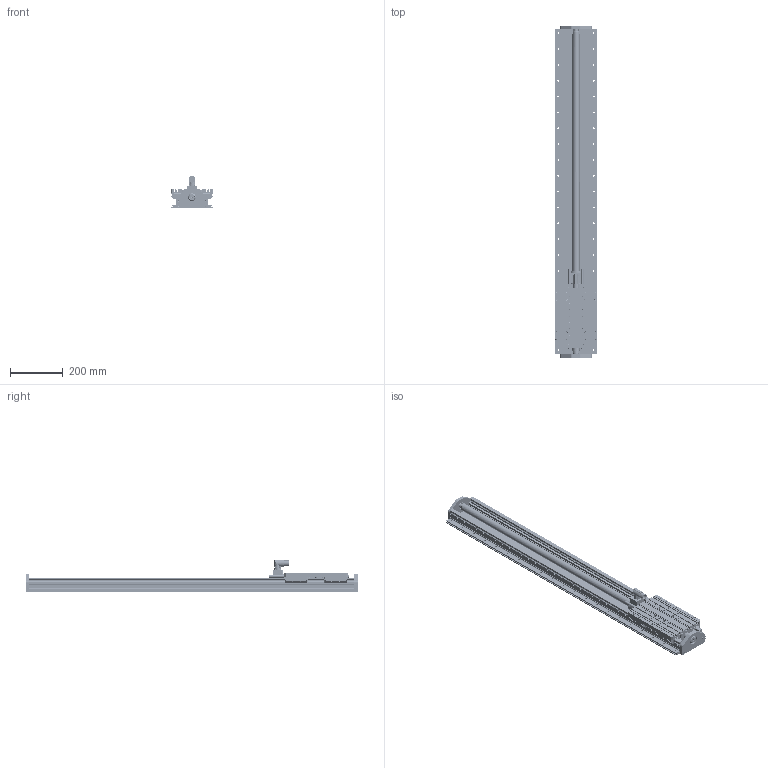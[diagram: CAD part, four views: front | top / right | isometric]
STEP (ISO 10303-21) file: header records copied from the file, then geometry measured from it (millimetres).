
FILE_DESCRIPTION(/* description */ (''),/* implementation_level */ '2;1');
FILE_NAME(/* name */ 'V:\CAD\Inventor-Stp\Linearmotorelement\GLMA 48-240\5000067.stp',/* time_stamp */ '2024-10-22T08:24:35+02:00',/* author */ ('ul'),/* organization */ (''),/* preprocessor_version */ 'ST-DEVELOPER v17',/* originating_system */ 'Autodesk Inventor 2018',/* authorisation */ '');
FILE_SCHEMA (('AUTOMOTIVE_DESIGN { 1 0 10303 214 3 1 1 }'));
Products named in the file (1): 5000067
Bounding box: 160 x 1257 x 121.5 mm (x, y, z)
Surface area: 1356044.4 mm2
Topology: 155 solids, 156 shells, 4827 faces, 13806 edges, 9389 vertices
Faces by surface type: plane 3151, cylinder 1236, cone 303, torus 136, bspline 1
Full cylindrical faces by diameter (mm): 3.242 x74, 3.3 x4, 3.5 x4, 4 x94, 4.134 x16, 4.5 x94, 4.917 x20, 5 x16, 5.5 x32, 6 x12, 6.5 x8, 6.647 x42, 7 x92, 7.5 x52, 8 x32, 8.5 x18, 9 x28, 9.5 x8, 10 x14, 10.4 x1, 10.5 x12, 12 x1, 19 x1, 20 x2, 20.4 x1, 21 x2, 22 x2, 25 x1, 25.5 x1, 25.823 x1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
Entity records: 167526 total; most frequent: CARTESIAN_POINT 33293, ORIENTED_EDGE 27282, DIRECTION 26917, EDGE_CURVE 13641, VERTEX_POINT 9389, AXIS2_PLACEMENT_3D 9252, LINE 8413, VECTOR 8413
